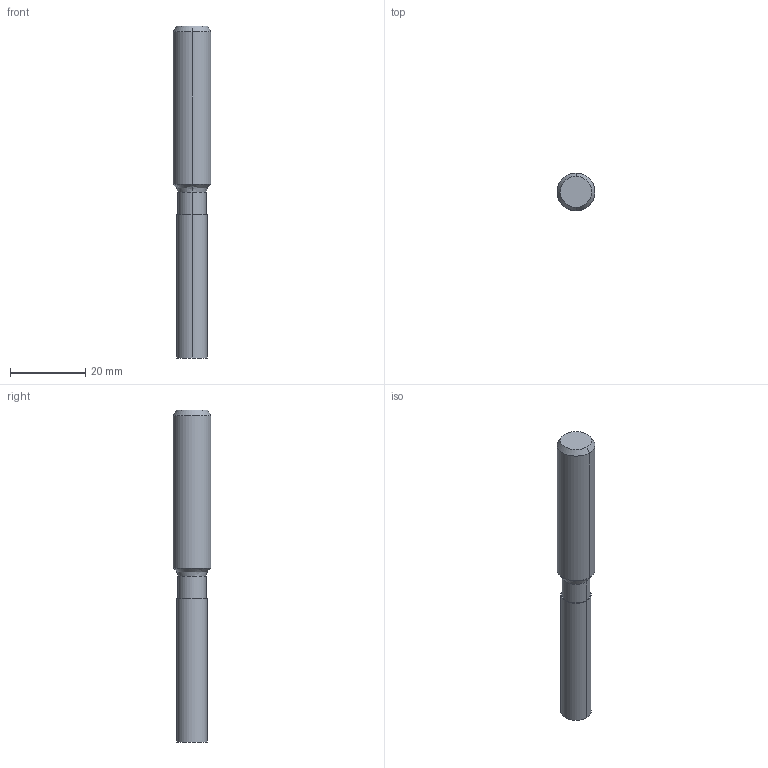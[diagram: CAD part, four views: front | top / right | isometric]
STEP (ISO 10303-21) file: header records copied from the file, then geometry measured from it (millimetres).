
FILE_DESCRIPTION((''),'2;1');
FILE_NAME('DIN4003_82_HEURO','2016-08-24T',('moesset'),(''),'PRO/ENGINEER BY PARAMETRIC TECHNOLOGY CORPORATION, 2015280','PRO/ENGINEER BY PARAMETRIC TECHNOLOGY CORPORATION, 2015280','');
FILE_SCHEMA(('AUTOMOTIVE_DESIGN { 1 0 10303 214 1 1 1 1 }'));
Length unit declared in the file: millimetre
Products named in the file (1): DIN4003_82_HEURO
Bounding box: 10 x 10 x 88 mm (x, y, z)
Volume: 5561.3 mm3; surface area: 2593.9 mm2
Topology: 1 solids, 1 shells, 14 faces, 28 edges, 19 vertices
Faces by surface type: bspline 14
Entity records: 998 total; most frequent: CARTESIAN_POINT 462, DIRECTION 76, ORIENTED_EDGE 52, AXIS2_PLACEMENT_3D 30, EDGE_CURVE 26, PRESENTATION_STYLE_ASSIGNMENT 25, STYLED_ITEM 25, CIRCLE 18
